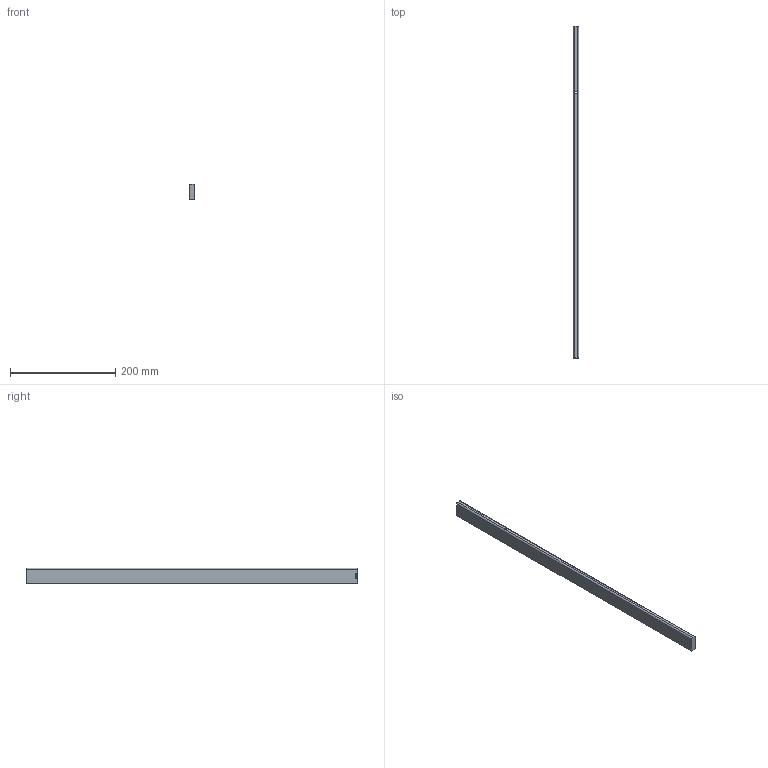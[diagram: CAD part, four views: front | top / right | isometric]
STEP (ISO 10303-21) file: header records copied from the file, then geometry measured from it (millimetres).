
FILE_DESCRIPTION (( 'STEP AP214' ), '1' );
FILE_NAME ('_Seitenreling_S760609500_RL629,5.step', '2010-09-06T14:51:36', ( 'grass' ), ( '' ), 'SwSTEP 2.0', 'SolidWorks 2010', '' );
FILE_SCHEMA (( 'AUTOMOTIVE_DESIGN' ));
Length unit declared in the file: millimetre
Products named in the file (1): _Seitenreling_S760609500_RL629,5
Bounding box: 10.5 x 629.5 x 30 mm (x, y, z)
Volume: 194474.8 mm3; surface area: 50843.9 mm2
Topology: 1 solids, 1 shells, 23 faces, 56 edges, 36 vertices
Faces by surface type: plane 15, cylinder 8
Entity records: 716 total; most frequent: DIRECTION 120, CARTESIAN_POINT 116, ORIENTED_EDGE 112, EDGE_CURVE 56, VECTOR 40, LINE 40, AXIS2_PLACEMENT_3D 40, VERTEX_POINT 36
